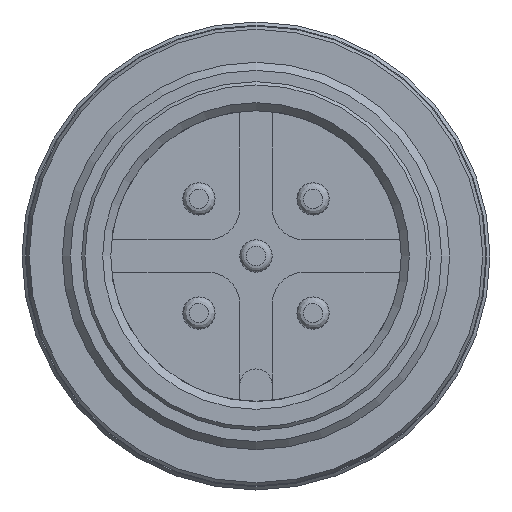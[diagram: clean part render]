
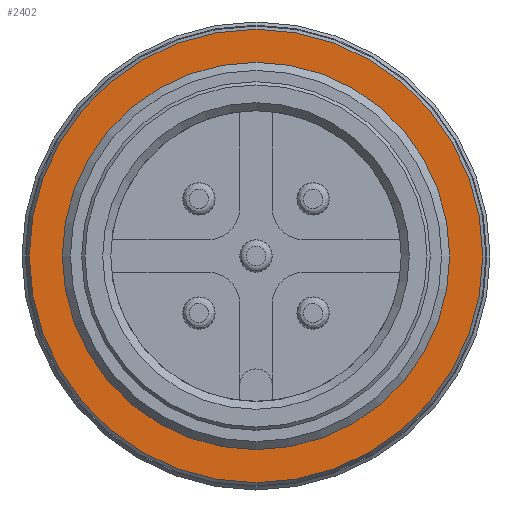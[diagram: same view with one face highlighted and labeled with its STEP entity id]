
A CAD part, front view. The second image highlights one B-rep face of the part: STEP entity #2402.
In plain terms, the highlighted planar face has unit normal (0, -1, 0).
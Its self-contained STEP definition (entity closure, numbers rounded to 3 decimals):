
#210 = DIRECTION ( 'NONE',  ( 0., 0., -1. ) ) ;
#246 = CARTESIAN_POINT ( 'NONE',  ( -7.025, -7.4, 0. ) ) ;
#258 = FACE_BOUND ( 'NONE', #2662, .T. ) ;
#291 = ORIENTED_EDGE ( 'NONE', *, *, #2713, .F. ) ;
#386 = AXIS2_PLACEMENT_3D ( 'NONE', #1788, #3102, #3525 ) ;
#395 = DIRECTION ( 'NONE',  ( 0., 1., 0. ) ) ;
#560 = PLANE ( 'NONE',  #1377 ) ;
#604 = CARTESIAN_POINT ( 'NONE',  ( 0., -7.4, 6.325 ) ) ;
#721 = CARTESIAN_POINT ( 'NONE',  ( 0., -7.4, 0. ) ) ;
#905 = FACE_OUTER_BOUND ( 'NONE', #3780, .T. ) ;
#1377 = AXIS2_PLACEMENT_3D ( 'NONE', #604, #1971, #210 ) ;
#1675 = CIRCLE ( 'NONE', #386, 5.625 ) ;
#1760 = DIRECTION ( 'NONE',  ( -1., 0., 0. ) ) ;
#1788 = CARTESIAN_POINT ( 'NONE',  ( 0., -7.4, 0. ) ) ;
#1960 = VERTEX_POINT ( 'NONE', #246 ) ;
#1971 = DIRECTION ( 'NONE',  ( 0., -1., 0. ) ) ;
#2260 = EDGE_CURVE ( 'NONE', #3318, #3318, #1675, .T. ) ;
#2299 = ORIENTED_EDGE ( 'NONE', *, *, #2260, .T. ) ;
#2352 = CARTESIAN_POINT ( 'NONE',  ( 0., -7.4, 5.625 ) ) ;
#2402 = ADVANCED_FACE ( 'NONE', ( #258, #905 ), #560, .T. ) ;
#2662 = EDGE_LOOP ( 'NONE', ( #2299 ) ) ;
#2713 = EDGE_CURVE ( 'NONE', #1960, #1960, #3132, .T. ) ;
#2921 = AXIS2_PLACEMENT_3D ( 'NONE', #721, #395, #1760 ) ;
#3102 = DIRECTION ( 'NONE',  ( 0., 1., 0. ) ) ;
#3132 = CIRCLE ( 'NONE', #2921, 7.025 ) ;
#3318 = VERTEX_POINT ( 'NONE', #2352 ) ;
#3525 = DIRECTION ( 'NONE',  ( 0., 0., 1. ) ) ;
#3780 = EDGE_LOOP ( 'NONE', ( #291 ) ) ;
